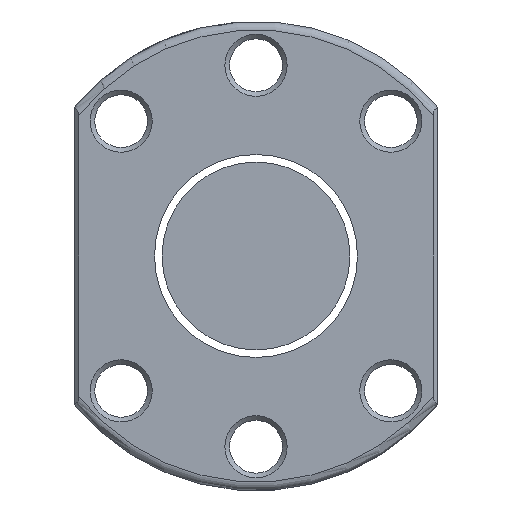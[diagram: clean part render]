
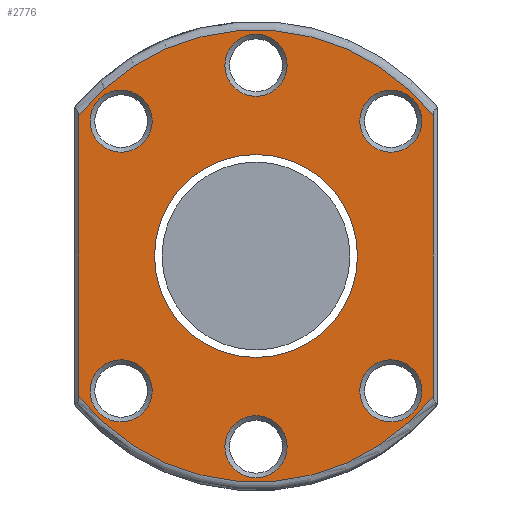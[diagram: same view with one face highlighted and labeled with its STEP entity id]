
A CAD part, left-side view. The second image highlights one B-rep face of the part: STEP entity #2776.
In plain terms, the highlighted planar face has unit normal (-1, 0, 0).
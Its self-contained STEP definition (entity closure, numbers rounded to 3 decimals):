
#7 = DIRECTION ( 'NONE',  ( 1., 0., 0. ) ) ;
#65 = FACE_OUTER_BOUND ( 'NONE', #334, .T. ) ;
#94 = EDGE_LOOP ( 'NONE', ( #2379 ) ) ;
#130 = VERTEX_POINT ( 'NONE', #2322 ) ;
#158 = DIRECTION ( 'NONE',  ( 1., 0., 0. ) ) ;
#191 = DIRECTION ( 'NONE',  ( 1., 0., 0. ) ) ;
#204 = ORIENTED_EDGE ( 'NONE', *, *, #1309, .T. ) ;
#270 = VECTOR ( 'NONE', #1237, 1000. ) ;
#272 = CIRCLE ( 'NONE', #2878, 5.3 ) ;
#310 = EDGE_CURVE ( 'NONE', #1162, #1162, #1287, .T. ) ;
#334 = EDGE_LOOP ( 'NONE', ( #1484, #1656, #1161, #1998 ) ) ;
#338 = CIRCLE ( 'NONE', #2790, 5.3 ) ;
#361 = VERTEX_POINT ( 'NONE', #1208 ) ;
#455 = DIRECTION ( 'NONE',  ( 0., 0., 1. ) ) ;
#461 = FACE_BOUND ( 'NONE', #1150, .T. ) ;
#478 = DIRECTION ( 'NONE',  ( -1., 0., 0. ) ) ;
#500 = AXIS2_PLACEMENT_3D ( 'NONE', #2456, #1439, #1743 ) ;
#555 = DIRECTION ( 'NONE',  ( 0., 0., 1. ) ) ;
#610 = EDGE_CURVE ( 'NONE', #1846, #361, #2427, .T. ) ;
#618 = CARTESIAN_POINT ( 'NONE',  ( -65., 0., -17.3 ) ) ;
#621 = ORIENTED_EDGE ( 'NONE', *, *, #310, .T. ) ;
#631 = CIRCLE ( 'NONE', #2109, 38.5 ) ;
#800 = ORIENTED_EDGE ( 'NONE', *, *, #3014, .T. ) ;
#821 = CARTESIAN_POINT ( 'NONE',  ( -65., -22.981, -22.981 ) ) ;
#833 = DIRECTION ( 'NONE',  ( 1., 0., 0. ) ) ;
#899 = CARTESIAN_POINT ( 'NONE',  ( -65., 0., 32.5 ) ) ;
#913 = EDGE_LOOP ( 'NONE', ( #204 ) ) ;
#940 = VERTEX_POINT ( 'NONE', #2855 ) ;
#985 = DIRECTION ( 'NONE',  ( 0., 0., 1. ) ) ;
#987 = DIRECTION ( 'NONE',  ( 0., 0., -1. ) ) ;
#1028 = CARTESIAN_POINT ( 'NONE',  ( -65., 30.2, -23.879 ) ) ;
#1047 = FACE_BOUND ( 'NONE', #1952, .T. ) ;
#1057 = AXIS2_PLACEMENT_3D ( 'NONE', #821, #833, #2510 ) ;
#1078 = EDGE_CURVE ( 'NONE', #361, #1333, #631, .T. ) ;
#1108 = CIRCLE ( 'NONE', #2646, 5.3 ) ;
#1150 = EDGE_LOOP ( 'NONE', ( #621 ) ) ;
#1161 = ORIENTED_EDGE ( 'NONE', *, *, #2487, .T. ) ;
#1162 = VERTEX_POINT ( 'NONE', #2135 ) ;
#1166 = ORIENTED_EDGE ( 'NONE', *, *, #1243, .T. ) ;
#1208 = CARTESIAN_POINT ( 'NONE',  ( -65., -30.2, 23.879 ) ) ;
#1237 = DIRECTION ( 'NONE',  ( 0., 0., 1. ) ) ;
#1243 = EDGE_CURVE ( 'NONE', #940, #940, #272, .T. ) ;
#1277 = FACE_BOUND ( 'NONE', #2887, .T. ) ;
#1287 = CIRCLE ( 'NONE', #1804, 5.3 ) ;
#1289 = CIRCLE ( 'NONE', #2063, 5.3 ) ;
#1309 = EDGE_CURVE ( 'NONE', #1606, #1606, #1289, .T. ) ;
#1333 = VERTEX_POINT ( 'NONE', #2143 ) ;
#1345 = VERTEX_POINT ( 'NONE', #618 ) ;
#1363 = CARTESIAN_POINT ( 'NONE',  ( -65., -22.981, -17.681 ) ) ;
#1376 = CARTESIAN_POINT ( 'NONE',  ( -65., 0., -32.5 ) ) ;
#1434 = ORIENTED_EDGE ( 'NONE', *, *, #2587, .T. ) ;
#1439 = DIRECTION ( 'NONE',  ( -1., 0., 0. ) ) ;
#1484 = ORIENTED_EDGE ( 'NONE', *, *, #610, .T. ) ;
#1491 = CARTESIAN_POINT ( 'NONE',  ( -65., 0., 0. ) ) ;
#1523 = CARTESIAN_POINT ( 'NONE',  ( -65., 22.981, 22.981 ) ) ;
#1605 = EDGE_LOOP ( 'NONE', ( #1166 ) ) ;
#1606 = VERTEX_POINT ( 'NONE', #2150 ) ;
#1656 = ORIENTED_EDGE ( 'NONE', *, *, #1078, .T. ) ;
#1680 = DIRECTION ( 'NONE',  ( -1., 0., 0. ) ) ;
#1743 = DIRECTION ( 'NONE',  ( 0., 0., 1. ) ) ;
#1755 = VERTEX_POINT ( 'NONE', #1028 ) ;
#1804 = AXIS2_PLACEMENT_3D ( 'NONE', #2925, #2151, #1964 ) ;
#1846 = VERTEX_POINT ( 'NONE', #2769 ) ;
#1869 = CIRCLE ( 'NONE', #3044, 17.3 ) ;
#1922 = CIRCLE ( 'NONE', #500, 38.5 ) ;
#1928 = FACE_BOUND ( 'NONE', #1605, .T. ) ;
#1952 = EDGE_LOOP ( 'NONE', ( #1434 ) ) ;
#1964 = DIRECTION ( 'NONE',  ( 0., 0., 1. ) ) ;
#1975 = CIRCLE ( 'NONE', #1057, 5.3 ) ;
#1998 = ORIENTED_EDGE ( 'NONE', *, *, #2346, .T. ) ;
#2054 = VERTEX_POINT ( 'NONE', #1363 ) ;
#2063 = AXIS2_PLACEMENT_3D ( 'NONE', #1376, #2081, #2863 ) ;
#2081 = DIRECTION ( 'NONE',  ( 1., 0., 0. ) ) ;
#2109 = AXIS2_PLACEMENT_3D ( 'NONE', #1491, #1680, #985 ) ;
#2135 = CARTESIAN_POINT ( 'NONE',  ( -65., 22.981, -17.681 ) ) ;
#2143 = CARTESIAN_POINT ( 'NONE',  ( -65., 30.2, 23.879 ) ) ;
#2150 = CARTESIAN_POINT ( 'NONE',  ( -65., 0., -27.2 ) ) ;
#2151 = DIRECTION ( 'NONE',  ( 1., 0., 0. ) ) ;
#2154 = EDGE_LOOP ( 'NONE', ( #2247 ) ) ;
#2166 = VERTEX_POINT ( 'NONE', #2906 ) ;
#2247 = ORIENTED_EDGE ( 'NONE', *, *, #2918, .T. ) ;
#2255 = FACE_BOUND ( 'NONE', #2154, .T. ) ;
#2275 = VECTOR ( 'NONE', #2839, 1000. ) ;
#2322 = CARTESIAN_POINT ( 'NONE',  ( -65., 0., 37.8 ) ) ;
#2346 = EDGE_CURVE ( 'NONE', #1755, #1846, #1922, .T. ) ;
#2370 = CARTESIAN_POINT ( 'NONE',  ( -65., -22.981, 22.981 ) ) ;
#2379 = ORIENTED_EDGE ( 'NONE', *, *, #2450, .T. ) ;
#2427 = LINE ( 'NONE', #2687, #270 ) ;
#2450 = EDGE_CURVE ( 'NONE', #2166, #2166, #1108, .T. ) ;
#2456 = CARTESIAN_POINT ( 'NONE',  ( -65., 0., 0. ) ) ;
#2487 = EDGE_CURVE ( 'NONE', #1333, #1755, #3137, .T. ) ;
#2500 = DIRECTION ( 'NONE',  ( 1., 0., 0. ) ) ;
#2501 = FACE_BOUND ( 'NONE', #94, .T. ) ;
#2510 = DIRECTION ( 'NONE',  ( 0., 0., 1. ) ) ;
#2587 = EDGE_CURVE ( 'NONE', #1345, #1345, #1869, .T. ) ;
#2592 = AXIS2_PLACEMENT_3D ( 'NONE', #2669, #478, #2756 ) ;
#2646 = AXIS2_PLACEMENT_3D ( 'NONE', #1523, #2500, #555 ) ;
#2649 = DIRECTION ( 'NONE',  ( 0., 0., 1. ) ) ;
#2669 = CARTESIAN_POINT ( 'NONE',  ( -65., 40., 0. ) ) ;
#2687 = CARTESIAN_POINT ( 'NONE',  ( -65., -30.2, 25.278 ) ) ;
#2756 = DIRECTION ( 'NONE',  ( 0., 0., 1. ) ) ;
#2769 = CARTESIAN_POINT ( 'NONE',  ( -65., -30.2, -23.879 ) ) ;
#2776 = ADVANCED_FACE ( 'NONE', ( #2501, #461, #3138, #1277, #1928, #2255, #65, #1047 ), #2997, .T. ) ;
#2790 = AXIS2_PLACEMENT_3D ( 'NONE', #899, #191, #2649 ) ;
#2839 = DIRECTION ( 'NONE',  ( 0., 0., -1. ) ) ;
#2852 = CARTESIAN_POINT ( 'NONE',  ( -65., 30.2, -25.278 ) ) ;
#2855 = CARTESIAN_POINT ( 'NONE',  ( -65., -22.981, 28.281 ) ) ;
#2863 = DIRECTION ( 'NONE',  ( 0., 0., 1. ) ) ;
#2878 = AXIS2_PLACEMENT_3D ( 'NONE', #2370, #158, #455 ) ;
#2887 = EDGE_LOOP ( 'NONE', ( #800 ) ) ;
#2906 = CARTESIAN_POINT ( 'NONE',  ( -65., 22.981, 28.281 ) ) ;
#2918 = EDGE_CURVE ( 'NONE', #130, #130, #338, .T. ) ;
#2923 = CARTESIAN_POINT ( 'NONE',  ( -65., 0., 0. ) ) ;
#2925 = CARTESIAN_POINT ( 'NONE',  ( -65., 22.981, -22.981 ) ) ;
#2997 = PLANE ( 'NONE',  #2592 ) ;
#3014 = EDGE_CURVE ( 'NONE', #2054, #2054, #1975, .T. ) ;
#3044 = AXIS2_PLACEMENT_3D ( 'NONE', #2923, #7, #987 ) ;
#3137 = LINE ( 'NONE', #2852, #2275 ) ;
#3138 = FACE_BOUND ( 'NONE', #913, .T. ) ;
